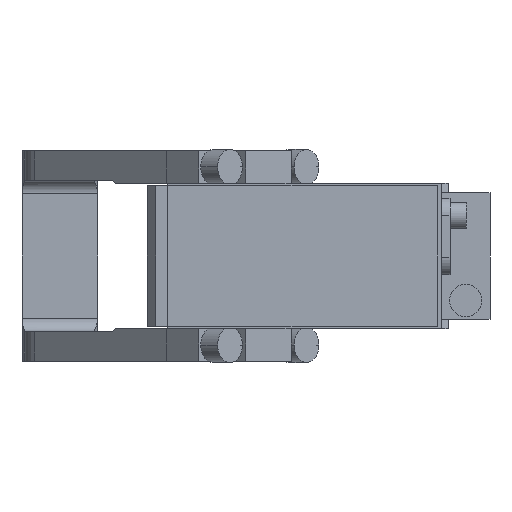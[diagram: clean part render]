
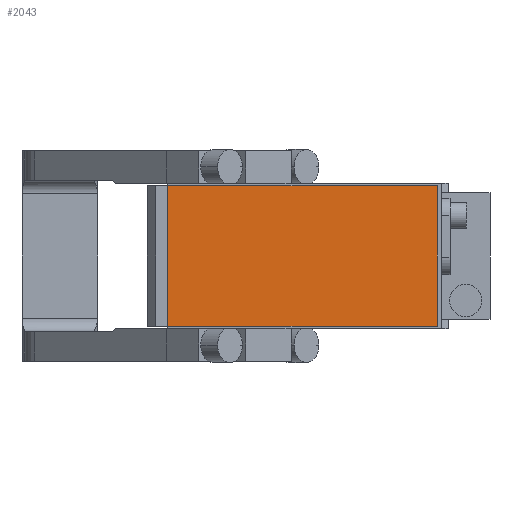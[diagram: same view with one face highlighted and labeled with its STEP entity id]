
A CAD part, front view. The second image highlights one B-rep face of the part: STEP entity #2043.
In plain terms, the highlighted planar face has unit normal (0, -1, 0).
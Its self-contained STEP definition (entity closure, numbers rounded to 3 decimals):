
#345 = CARTESIAN_POINT ( 'NONE',  ( -19., -286.5, -26. ) ) ;
#788 = LINE ( 'NONE', #11691, #8949 ) ;
#918 = LINE ( 'NONE', #5477, #8572 ) ;
#1743 = CARTESIAN_POINT ( 'NONE',  ( 81., -286.5, -26. ) ) ;
#1796 = EDGE_CURVE ( 'NONE', #3128, #8447, #788, .T. ) ;
#2038 = CARTESIAN_POINT ( 'NONE',  ( -19., -286.5, 26. ) ) ;
#2043 = ADVANCED_FACE ( 'NONE', ( #11387 ), #10388, .T. ) ;
#2113 = AXIS2_PLACEMENT_3D ( 'NONE', #4828, #9041, #13648 ) ;
#2658 = EDGE_LOOP ( 'NONE', ( #5095, #7746, #8817, #6419 ) ) ;
#2981 = DIRECTION ( 'NONE',  ( 0., 0., -1. ) ) ;
#3128 = VERTEX_POINT ( 'NONE', #2038 ) ;
#3293 = DIRECTION ( 'NONE',  ( 1., 0., 0. ) ) ;
#3399 = CARTESIAN_POINT ( 'NONE',  ( 81., -286.5, 26. ) ) ;
#3474 = VERTEX_POINT ( 'NONE', #1743 ) ;
#4828 = CARTESIAN_POINT ( 'NONE',  ( 0., -286.5, 0. ) ) ;
#5095 = ORIENTED_EDGE ( 'NONE', *, *, #1796, .T. ) ;
#5477 = CARTESIAN_POINT ( 'NONE',  ( 81., -286.5, 26. ) ) ;
#6419 = ORIENTED_EDGE ( 'NONE', *, *, #13600, .T. ) ;
#6604 = DIRECTION ( 'NONE',  ( 0., 0., 1. ) ) ;
#6691 = DIRECTION ( 'NONE',  ( -1., 0., 0. ) ) ;
#7746 = ORIENTED_EDGE ( 'NONE', *, *, #11524, .T. ) ;
#8297 = CARTESIAN_POINT ( 'NONE',  ( -19., -286.5, -26. ) ) ;
#8447 = VERTEX_POINT ( 'NONE', #345 ) ;
#8572 = VECTOR ( 'NONE', #6604, 1000. ) ;
#8685 = LINE ( 'NONE', #9683, #8800 ) ;
#8800 = VECTOR ( 'NONE', #6691, 1000. ) ;
#8817 = ORIENTED_EDGE ( 'NONE', *, *, #13961, .T. ) ;
#8949 = VECTOR ( 'NONE', #2981, 1000. ) ;
#9041 = DIRECTION ( 'NONE',  ( 0., -1., 0. ) ) ;
#9440 = VERTEX_POINT ( 'NONE', #3399 ) ;
#9683 = CARTESIAN_POINT ( 'NONE',  ( -19., -286.5, 26. ) ) ;
#9875 = VECTOR ( 'NONE', #3293, 1000. ) ;
#10388 = PLANE ( 'NONE',  #2113 ) ;
#11387 = FACE_OUTER_BOUND ( 'NONE', #2658, .T. ) ;
#11524 = EDGE_CURVE ( 'NONE', #8447, #3474, #13693, .T. ) ;
#11691 = CARTESIAN_POINT ( 'NONE',  ( -19., -286.5, 26. ) ) ;
#13600 = EDGE_CURVE ( 'NONE', #9440, #3128, #8685, .T. ) ;
#13648 = DIRECTION ( 'NONE',  ( 0., 0., -1. ) ) ;
#13693 = LINE ( 'NONE', #8297, #9875 ) ;
#13961 = EDGE_CURVE ( 'NONE', #3474, #9440, #918, .T. ) ;
